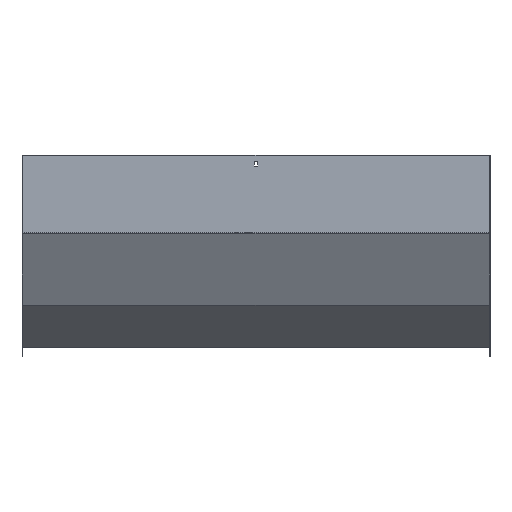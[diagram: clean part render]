
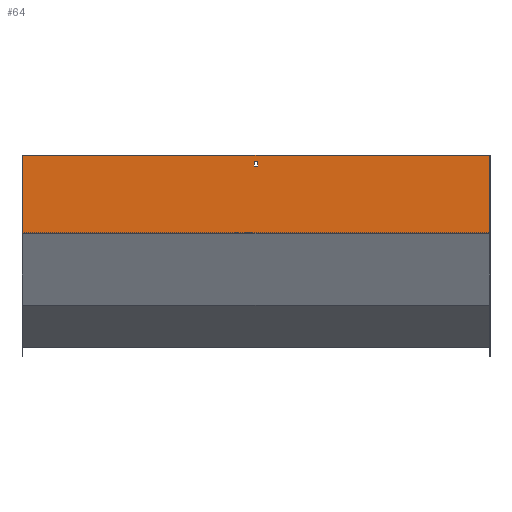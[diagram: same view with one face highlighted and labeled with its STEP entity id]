
A CAD part, front view. The second image highlights one B-rep face of the part: STEP entity #64.
In plain terms, the highlighted planar face has unit normal (0, -1, 0).
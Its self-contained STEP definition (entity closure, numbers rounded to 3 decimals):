
#15 = CARTESIAN_POINT ( 'NONE',  ( -450., -1.5, -150.102 ) ) ;
#42 = EDGE_CURVE ( 'NONE', #427, #781, #328, .T. ) ;
#49 = DIRECTION ( 'NONE',  ( -1., 0., 0. ) ) ;
#56 = LINE ( 'NONE', #744, #790 ) ;
#58 = DIRECTION ( 'NONE',  ( 0., 0., -1. ) ) ;
#63 = DIRECTION ( 'NONE',  ( -1., 0., 0. ) ) ;
#64 = ADVANCED_FACE ( 'NONE', ( #852, #466 ), #770, .F. ) ;
#69 = VECTOR ( 'NONE', #49, 1000. ) ;
#73 = ORIENTED_EDGE ( 'NONE', *, *, #256, .T. ) ;
#78 = VERTEX_POINT ( 'NONE', #782 ) ;
#86 = DIRECTION ( 'NONE',  ( 0., 1., 0. ) ) ;
#101 = AXIS2_PLACEMENT_3D ( 'NONE', #478, #86, #158 ) ;
#129 = CARTESIAN_POINT ( 'NONE',  ( -3.25, -1.5, 0. ) ) ;
#135 = LINE ( 'NONE', #129, #940 ) ;
#158 = DIRECTION ( 'NONE',  ( 0., 0., 1. ) ) ;
#171 = CARTESIAN_POINT ( 'NONE',  ( 450., -1.5, 0. ) ) ;
#179 = CARTESIAN_POINT ( 'NONE',  ( 3.25, -1.5, -21. ) ) ;
#209 = LINE ( 'NONE', #986, #555 ) ;
#216 = LINE ( 'NONE', #436, #227 ) ;
#221 = EDGE_CURVE ( 'NONE', #444, #927, #650, .T. ) ;
#227 = VECTOR ( 'NONE', #734, 1000. ) ;
#245 = VECTOR ( 'NONE', #626, 1000. ) ;
#256 = EDGE_CURVE ( 'NONE', #717, #427, #957, .T. ) ;
#271 = CARTESIAN_POINT ( 'NONE',  ( 451.5, -1.5, 0. ) ) ;
#280 = DIRECTION ( 'NONE',  ( 0., 0., 1. ) ) ;
#297 = CARTESIAN_POINT ( 'NONE',  ( 450., -1.5, 0. ) ) ;
#316 = EDGE_CURVE ( 'NONE', #910, #444, #216, .T. ) ;
#325 = EDGE_CURVE ( 'NONE', #701, #781, #56, .T. ) ;
#328 = LINE ( 'NONE', #548, #245 ) ;
#343 = ORIENTED_EDGE ( 'NONE', *, *, #221, .F. ) ;
#345 = ORIENTED_EDGE ( 'NONE', *, *, #42, .T. ) ;
#348 = ORIENTED_EDGE ( 'NONE', *, *, #629, .F. ) ;
#380 = ORIENTED_EDGE ( 'NONE', *, *, #316, .F. ) ;
#427 = VERTEX_POINT ( 'NONE', #708 ) ;
#436 = CARTESIAN_POINT ( 'NONE',  ( 451.5, -1.5, -21. ) ) ;
#444 = VERTEX_POINT ( 'NONE', #179 ) ;
#466 = FACE_BOUND ( 'NONE', #596, .T. ) ;
#478 = CARTESIAN_POINT ( 'NONE',  ( 451.5, -1.5, 0. ) ) ;
#492 = ORIENTED_EDGE ( 'NONE', *, *, #610, .F. ) ;
#511 = VECTOR ( 'NONE', #58, 1000. ) ;
#538 = CARTESIAN_POINT ( 'NONE',  ( -3.25, -1.5, -21. ) ) ;
#542 = EDGE_CURVE ( 'NONE', #78, #910, #135, .T. ) ;
#548 = CARTESIAN_POINT ( 'NONE',  ( -450., -1.5, 0. ) ) ;
#555 = VECTOR ( 'NONE', #593, 1000. ) ;
#593 = DIRECTION ( 'NONE',  ( -1., 0., 0. ) ) ;
#596 = EDGE_LOOP ( 'NONE', ( #343, #380, #859, #492 ) ) ;
#610 = EDGE_CURVE ( 'NONE', #927, #78, #209, .T. ) ;
#626 = DIRECTION ( 'NONE',  ( 0., 0., -1. ) ) ;
#629 = EDGE_CURVE ( 'NONE', #717, #701, #891, .T. ) ;
#646 = ORIENTED_EDGE ( 'NONE', *, *, #325, .F. ) ;
#650 = LINE ( 'NONE', #968, #887 ) ;
#700 = EDGE_LOOP ( 'NONE', ( #345, #646, #348, #73 ) ) ;
#701 = VERTEX_POINT ( 'NONE', #926 ) ;
#708 = CARTESIAN_POINT ( 'NONE',  ( -450., -1.5, 0. ) ) ;
#717 = VERTEX_POINT ( 'NONE', #171 ) ;
#734 = DIRECTION ( 'NONE',  ( 1., 0., 0. ) ) ;
#744 = CARTESIAN_POINT ( 'NONE',  ( 451.5, -1.5, -150.102 ) ) ;
#770 = PLANE ( 'NONE',  #101 ) ;
#781 = VERTEX_POINT ( 'NONE', #15 ) ;
#782 = CARTESIAN_POINT ( 'NONE',  ( -3.25, -1.5, -12. ) ) ;
#790 = VECTOR ( 'NONE', #63, 1000. ) ;
#852 = FACE_OUTER_BOUND ( 'NONE', #700, .T. ) ;
#859 = ORIENTED_EDGE ( 'NONE', *, *, #542, .F. ) ;
#887 = VECTOR ( 'NONE', #280, 1000. ) ;
#891 = LINE ( 'NONE', #297, #511 ) ;
#910 = VERTEX_POINT ( 'NONE', #538 ) ;
#924 = CARTESIAN_POINT ( 'NONE',  ( 3.25, -1.5, -12. ) ) ;
#926 = CARTESIAN_POINT ( 'NONE',  ( 450., -1.5, -150.102 ) ) ;
#927 = VERTEX_POINT ( 'NONE', #924 ) ;
#940 = VECTOR ( 'NONE', #978, 1000. ) ;
#957 = LINE ( 'NONE', #271, #69 ) ;
#968 = CARTESIAN_POINT ( 'NONE',  ( 3.25, -1.5, 0. ) ) ;
#978 = DIRECTION ( 'NONE',  ( 0., 0., -1. ) ) ;
#986 = CARTESIAN_POINT ( 'NONE',  ( 451.5, -1.5, -12. ) ) ;
